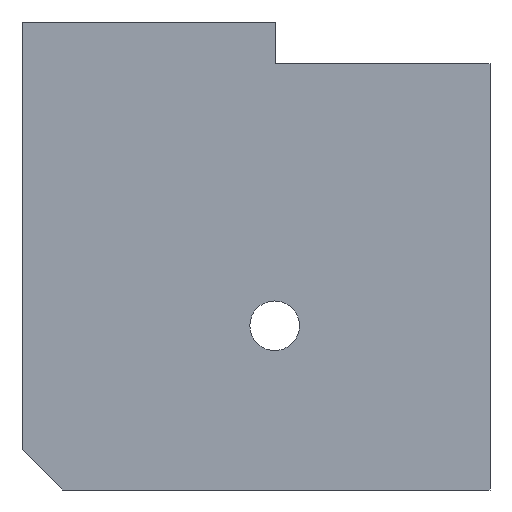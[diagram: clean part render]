
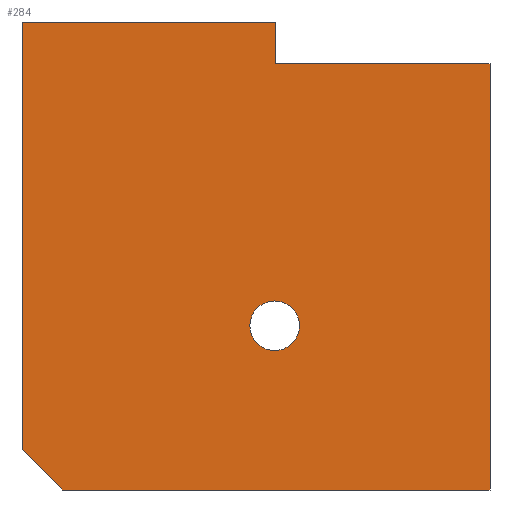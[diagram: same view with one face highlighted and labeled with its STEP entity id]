
A CAD part, left-side view. The second image highlights one B-rep face of the part: STEP entity #284.
In plain terms, the highlighted planar face has unit normal (-1, 0, 0).
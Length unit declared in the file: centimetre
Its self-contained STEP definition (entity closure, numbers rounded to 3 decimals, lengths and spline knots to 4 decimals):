
#3 = LINE ( 'NONE', #43, #348 ) ;
#15 = CARTESIAN_POINT ( 'NONE',  ( 0., 1000., 0. ) ) ;
#30 = CARTESIAN_POINT ( 'NONE',  ( 0., 0., 910.871 ) ) ;
#40 = DIRECTION ( 'NONE',  ( 1., 0., 0. ) ) ;
#43 = CARTESIAN_POINT ( 'NONE',  ( 0., 1000., 1000. ) ) ;
#47 = FACE_OUTER_BOUND ( 'NONE', #594, .T. ) ;
#52 = AXIS2_PLACEMENT_3D ( 'NONE', #212, #646, #268 ) ;
#66 = ORIENTED_EDGE ( 'NONE', *, *, #428, .T. ) ;
#67 = CARTESIAN_POINT ( 'NONE',  ( 0., 458.7112, 910.871 ) ) ;
#74 = ORIENTED_EDGE ( 'NONE', *, *, #90, .T. ) ;
#90 = EDGE_CURVE ( 'NONE', #517, #415, #392, .T. ) ;
#102 = CARTESIAN_POINT ( 'NONE',  ( 0., 1000., 1000. ) ) ;
#105 = DIRECTION ( 'NONE',  ( 0., 0., -1. ) ) ;
#138 = EDGE_CURVE ( 'NONE', #491, #415, #663, .T. ) ;
#149 = LINE ( 'NONE', #192, #188 ) ;
#152 = LINE ( 'NONE', #635, #315 ) ;
#155 = CARTESIAN_POINT ( 'NONE',  ( 0., 1000., 86.7269 ) ) ;
#172 = VERTEX_POINT ( 'NONE', #237 ) ;
#175 = ORIENTED_EDGE ( 'NONE', *, *, #244, .F. ) ;
#184 = DIRECTION ( 'NONE',  ( 0., 0., -1. ) ) ;
#188 = VECTOR ( 'NONE', #301, 100. ) ;
#192 = CARTESIAN_POINT ( 'NONE',  ( 0., 458.7112, 910.871 ) ) ;
#195 = DIRECTION ( 'NONE',  ( 0., 0., -1. ) ) ;
#202 = DIRECTION ( 'NONE',  ( 0., 0., -1. ) ) ;
#203 = VERTEX_POINT ( 'NONE', #570 ) ;
#212 = CARTESIAN_POINT ( 'NONE',  ( 0., 460.2007, 350.9498 ) ) ;
#224 = CARTESIAN_POINT ( 'NONE',  ( 0., 458.7112, 1000. ) ) ;
#230 = DIRECTION ( 'NONE',  ( 0., -1., 0. ) ) ;
#237 = CARTESIAN_POINT ( 'NONE',  ( 0., 1000., 1000. ) ) ;
#239 = AXIS2_PLACEMENT_3D ( 'NONE', #414, #40, #202 ) ;
#244 = EDGE_CURVE ( 'NONE', #311, #267, #149, .T. ) ;
#246 = DIRECTION ( 'NONE',  ( 1., 0., 0. ) ) ;
#252 = LINE ( 'NONE', #102, #259 ) ;
#259 = VECTOR ( 'NONE', #631, 100. ) ;
#267 = VERTEX_POINT ( 'NONE', #305 ) ;
#268 = DIRECTION ( 'NONE',  ( 0., 0., -1. ) ) ;
#270 = EDGE_CURVE ( 'NONE', #443, #203, #616, .T. ) ;
#280 = CARTESIAN_POINT ( 'NONE',  ( 0., 460.2007, 297.9296 ) ) ;
#284 = ADVANCED_FACE ( 'NONE', ( #523, #47 ), #619, .F. ) ;
#293 = VECTOR ( 'NONE', #184, 100. ) ;
#301 = DIRECTION ( 'NONE',  ( 0., 0., -1. ) ) ;
#305 = CARTESIAN_POINT ( 'NONE',  ( 0., 458.7112, 910.871 ) ) ;
#309 = AXIS2_PLACEMENT_3D ( 'NONE', #410, #246, #195 ) ;
#311 = VERTEX_POINT ( 'NONE', #224 ) ;
#315 = VECTOR ( 'NONE', #525, 100. ) ;
#331 = ORIENTED_EDGE ( 'NONE', *, *, #617, .F. ) ;
#338 = EDGE_CURVE ( 'NONE', #267, #491, #372, .T. ) ;
#348 = VECTOR ( 'NONE', #105, 100. ) ;
#360 = EDGE_LOOP ( 'NONE', ( #411, #66 ) ) ;
#361 = CARTESIAN_POINT ( 'NONE',  ( 0., 913.2731, 0. ) ) ;
#372 = LINE ( 'NONE', #67, #427 ) ;
#373 = CIRCLE ( 'NONE', #52, 53.0202 ) ;
#392 = LINE ( 'NONE', #15, #569 ) ;
#410 = CARTESIAN_POINT ( 'NONE',  ( 0., 460.2007, 350.9498 ) ) ;
#411 = ORIENTED_EDGE ( 'NONE', *, *, #270, .T. ) ;
#414 = CARTESIAN_POINT ( 'NONE',  ( 0., 1000., 1000. ) ) ;
#415 = VERTEX_POINT ( 'NONE', #542 ) ;
#427 = VECTOR ( 'NONE', #539, 100. ) ;
#428 = EDGE_CURVE ( 'NONE', #203, #443, #373, .T. ) ;
#443 = VERTEX_POINT ( 'NONE', #280 ) ;
#485 = ORIENTED_EDGE ( 'NONE', *, *, #138, .F. ) ;
#491 = VERTEX_POINT ( 'NONE', #30 ) ;
#499 = ORIENTED_EDGE ( 'NONE', *, *, #661, .T. ) ;
#517 = VERTEX_POINT ( 'NONE', #361 ) ;
#523 = FACE_BOUND ( 'NONE', #360, .T. ) ;
#525 = DIRECTION ( 'NONE',  ( 0., -0.707, -0.707 ) ) ;
#526 = ORIENTED_EDGE ( 'NONE', *, *, #551, .T. ) ;
#539 = DIRECTION ( 'NONE',  ( 0., -1., 0. ) ) ;
#542 = CARTESIAN_POINT ( 'NONE',  ( 0., 0., 0. ) ) ;
#551 = EDGE_CURVE ( 'NONE', #172, #611, #3, .T. ) ;
#562 = CARTESIAN_POINT ( 'NONE',  ( 0., 0., 1000. ) ) ;
#569 = VECTOR ( 'NONE', #230, 100. ) ;
#570 = CARTESIAN_POINT ( 'NONE',  ( 0., 460.2007, 403.97 ) ) ;
#594 = EDGE_LOOP ( 'NONE', ( #485, #650, #175, #331, #526, #499, #74 ) ) ;
#611 = VERTEX_POINT ( 'NONE', #155 ) ;
#616 = CIRCLE ( 'NONE', #309, 53.0202 ) ;
#617 = EDGE_CURVE ( 'NONE', #172, #311, #252, .T. ) ;
#619 = PLANE ( 'NONE',  #239 ) ;
#631 = DIRECTION ( 'NONE',  ( 0., -1., 0. ) ) ;
#635 = CARTESIAN_POINT ( 'NONE',  ( 0., 1000., 86.7269 ) ) ;
#646 = DIRECTION ( 'NONE',  ( 1., 0., 0. ) ) ;
#650 = ORIENTED_EDGE ( 'NONE', *, *, #338, .F. ) ;
#661 = EDGE_CURVE ( 'NONE', #611, #517, #152, .T. ) ;
#663 = LINE ( 'NONE', #562, #293 ) ;
